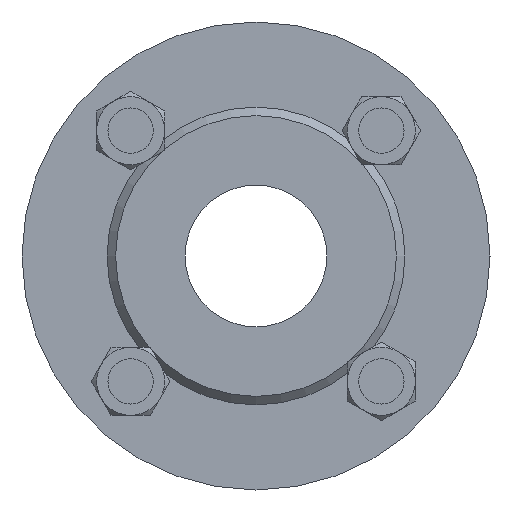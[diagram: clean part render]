
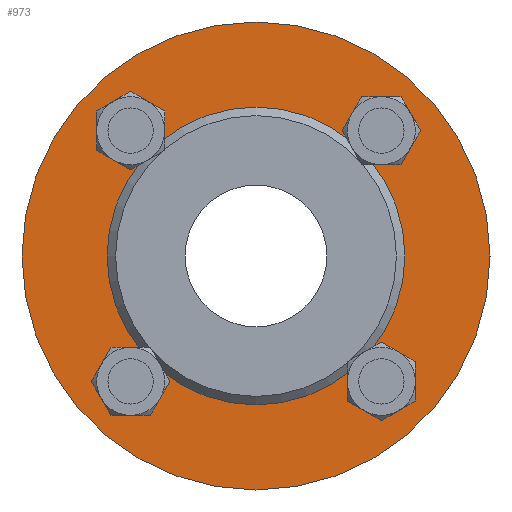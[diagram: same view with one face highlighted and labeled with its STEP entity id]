
A CAD part, left-side view. The second image highlights one B-rep face of the part: STEP entity #973.
In plain terms, the highlighted planar face has unit normal (-1, 0, 0).
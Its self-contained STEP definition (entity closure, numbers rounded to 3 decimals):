
#84 = CIRCLE ( 'NONE', #3815, 52.5 ) ;
#175 = VERTEX_POINT ( 'NONE', #6679 ) ;
#241 = CARTESIAN_POINT ( 'NONE',  ( 3., -44.194, -44.194 ) ) ;
#358 = AXIS2_PLACEMENT_3D ( 'NONE', #241, #11201, #1481 ) ;
#752 = EDGE_CURVE ( 'NONE', #13843, #13843, #963, .T. ) ;
#870 = PLANE ( 'NONE',  #2867 ) ;
#963 = CIRCLE ( 'NONE', #9828, 8. ) ;
#973 = ADVANCED_FACE ( 'NONE', ( #3129, #9623, #11016, #2983, #10948, #10882 ), #870, .F. ) ;
#1267 = CARTESIAN_POINT ( 'NONE',  ( 3., 0., 82.5 ) ) ;
#1481 = DIRECTION ( 'NONE',  ( 0., 0., -1. ) ) ;
#1489 = AXIS2_PLACEMENT_3D ( 'NONE', #3279, #14180, #2049 ) ;
#1545 = EDGE_LOOP ( 'NONE', ( #13340 ) ) ;
#1603 = DIRECTION ( 'NONE',  ( -1., 0., 0. ) ) ;
#1962 = DIRECTION ( 'NONE',  ( -1., 0., 0. ) ) ;
#2049 = DIRECTION ( 'NONE',  ( 0., 0., 1. ) ) ;
#2116 = DIRECTION ( 'NONE',  ( 0., 0., 1. ) ) ;
#2194 = CIRCLE ( 'NONE', #1489, 82.5 ) ;
#2323 = CARTESIAN_POINT ( 'NONE',  ( 3., -44.194, 44.194 ) ) ;
#2379 = EDGE_LOOP ( 'NONE', ( #4656 ) ) ;
#2663 = VERTEX_POINT ( 'NONE', #7330 ) ;
#2859 = EDGE_CURVE ( 'NONE', #2663, #2663, #3158, .T. ) ;
#2867 = AXIS2_PLACEMENT_3D ( 'NONE', #5460, #5321, #13140 ) ;
#2960 = EDGE_CURVE ( 'NONE', #5000, #5000, #7350, .T. ) ;
#2983 = FACE_BOUND ( 'NONE', #3542, .T. ) ;
#3129 = FACE_BOUND ( 'NONE', #4934, .T. ) ;
#3158 = CIRCLE ( 'NONE', #11548, 8. ) ;
#3279 = CARTESIAN_POINT ( 'NONE',  ( 3., 0., 0. ) ) ;
#3440 = EDGE_CURVE ( 'NONE', #5878, #5878, #13659, .T. ) ;
#3542 = EDGE_LOOP ( 'NONE', ( #14438 ) ) ;
#3730 = DIRECTION ( 'NONE',  ( 0., 0., -1. ) ) ;
#3742 = EDGE_LOOP ( 'NONE', ( #7198 ) ) ;
#3815 = AXIS2_PLACEMENT_3D ( 'NONE', #8771, #7594, #2116 ) ;
#3978 = CARTESIAN_POINT ( 'NONE',  ( 3., -44.194, 36.194 ) ) ;
#4154 = DIRECTION ( 'NONE',  ( 0., 0., -1. ) ) ;
#4656 = ORIENTED_EDGE ( 'NONE', *, *, #2859, .F. ) ;
#4934 = EDGE_LOOP ( 'NONE', ( #6691 ) ) ;
#5000 = VERTEX_POINT ( 'NONE', #13988 ) ;
#5321 = DIRECTION ( 'NONE',  ( 1., 0., 0. ) ) ;
#5460 = CARTESIAN_POINT ( 'NONE',  ( 3., 52.5, 0. ) ) ;
#5878 = VERTEX_POINT ( 'NONE', #10341 ) ;
#6238 = EDGE_LOOP ( 'NONE', ( #11519 ) ) ;
#6679 = CARTESIAN_POINT ( 'NONE',  ( 3., 0., 52.5 ) ) ;
#6691 = ORIENTED_EDGE ( 'NONE', *, *, #752, .F. ) ;
#7198 = ORIENTED_EDGE ( 'NONE', *, *, #13953, .F. ) ;
#7330 = CARTESIAN_POINT ( 'NONE',  ( 3., 44.194, -52.194 ) ) ;
#7350 = CIRCLE ( 'NONE', #358, 8. ) ;
#7594 = DIRECTION ( 'NONE',  ( -1., 0., 0. ) ) ;
#7881 = DIRECTION ( 'NONE',  ( 0., 0., -1. ) ) ;
#8771 = CARTESIAN_POINT ( 'NONE',  ( 3., 0., 0. ) ) ;
#9233 = AXIS2_PLACEMENT_3D ( 'NONE', #13729, #1603, #3730 ) ;
#9623 = FACE_BOUND ( 'NONE', #6238, .T. ) ;
#9828 = AXIS2_PLACEMENT_3D ( 'NONE', #2323, #10213, #7881 ) ;
#10213 = DIRECTION ( 'NONE',  ( -1., 0., 0. ) ) ;
#10341 = CARTESIAN_POINT ( 'NONE',  ( 3., 44.194, 36.194 ) ) ;
#10882 = FACE_OUTER_BOUND ( 'NONE', #1545, .T. ) ;
#10948 = FACE_BOUND ( 'NONE', #3742, .T. ) ;
#11016 = FACE_BOUND ( 'NONE', #2379, .T. ) ;
#11201 = DIRECTION ( 'NONE',  ( -1., 0., 0. ) ) ;
#11275 = VERTEX_POINT ( 'NONE', #1267 ) ;
#11519 = ORIENTED_EDGE ( 'NONE', *, *, #2960, .F. ) ;
#11548 = AXIS2_PLACEMENT_3D ( 'NONE', #14166, #1962, #4154 ) ;
#13140 = DIRECTION ( 'NONE',  ( 0., 0., -1. ) ) ;
#13340 = ORIENTED_EDGE ( 'NONE', *, *, #13939, .T. ) ;
#13659 = CIRCLE ( 'NONE', #9233, 8. ) ;
#13729 = CARTESIAN_POINT ( 'NONE',  ( 3., 44.194, 44.194 ) ) ;
#13843 = VERTEX_POINT ( 'NONE', #3978 ) ;
#13939 = EDGE_CURVE ( 'NONE', #11275, #11275, #2194, .T. ) ;
#13953 = EDGE_CURVE ( 'NONE', #175, #175, #84, .T. ) ;
#13988 = CARTESIAN_POINT ( 'NONE',  ( 3., -44.194, -52.194 ) ) ;
#14166 = CARTESIAN_POINT ( 'NONE',  ( 3., 44.194, -44.194 ) ) ;
#14180 = DIRECTION ( 'NONE',  ( -1., 0., 0. ) ) ;
#14438 = ORIENTED_EDGE ( 'NONE', *, *, #3440, .F. ) ;
